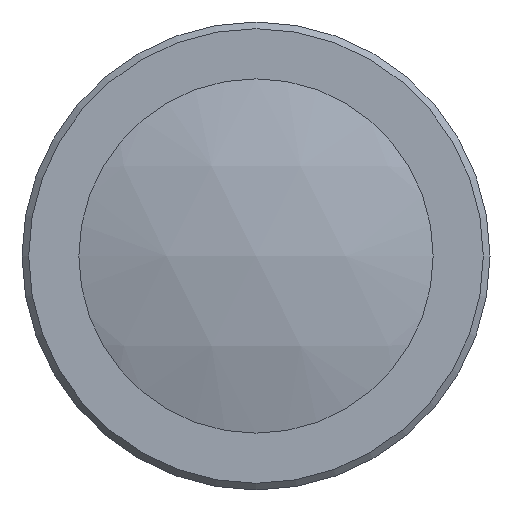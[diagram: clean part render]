
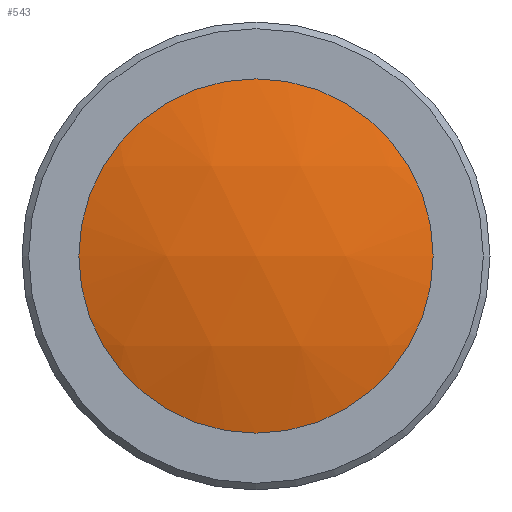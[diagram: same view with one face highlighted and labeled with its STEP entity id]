
A CAD part, left-side view. The second image highlights one B-rep face of the part: STEP entity #543.
In plain terms, the highlighted spherical face has radius 17.23 mm.
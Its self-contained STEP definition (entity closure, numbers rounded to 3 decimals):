
#8 = AXIS2_PLACEMENT_3D ( 'NONE', #737, #430, #124 ) ;
#94 = EDGE_CURVE ( 'NONE', #456, #456, #1449, .T. ) ;
#124 = DIRECTION ( 'NONE',  ( 0., 1., 0. ) ) ;
#183 = CARTESIAN_POINT ( 'NONE',  ( -118782.36, 49131.473, 0. ) ) ;
#213 = ORIENTED_EDGE ( 'NONE', *, *, #94, .T. ) ;
#289 = CARTESIAN_POINT ( 'NONE',  ( -118782.36, 49131.473, 5.3 ) ) ;
#430 = DIRECTION ( 'NONE',  ( 0., 0., -1. ) ) ;
#456 = VERTEX_POINT ( 'NONE', #289 ) ;
#543 = ADVANCED_FACE ( 'NONE', ( #1491 ), #1171, .T. ) ;
#737 = CARTESIAN_POINT ( 'NONE',  ( -118765.965, 49131.473, 0. ) ) ;
#966 = DIRECTION ( 'NONE',  ( -1., 0., 0. ) ) ;
#1156 = EDGE_LOOP ( 'NONE', ( #213 ) ) ;
#1171 = SPHERICAL_SURFACE ( 'NONE', #8, 17.23 ) ;
#1241 = DIRECTION ( 'NONE',  ( 0., 0., 1. ) ) ;
#1449 = CIRCLE ( 'NONE', #1904, 5.3 ) ;
#1491 = FACE_OUTER_BOUND ( 'NONE', #1156, .T. ) ;
#1904 = AXIS2_PLACEMENT_3D ( 'NONE', #183, #966, #1241 ) ;
